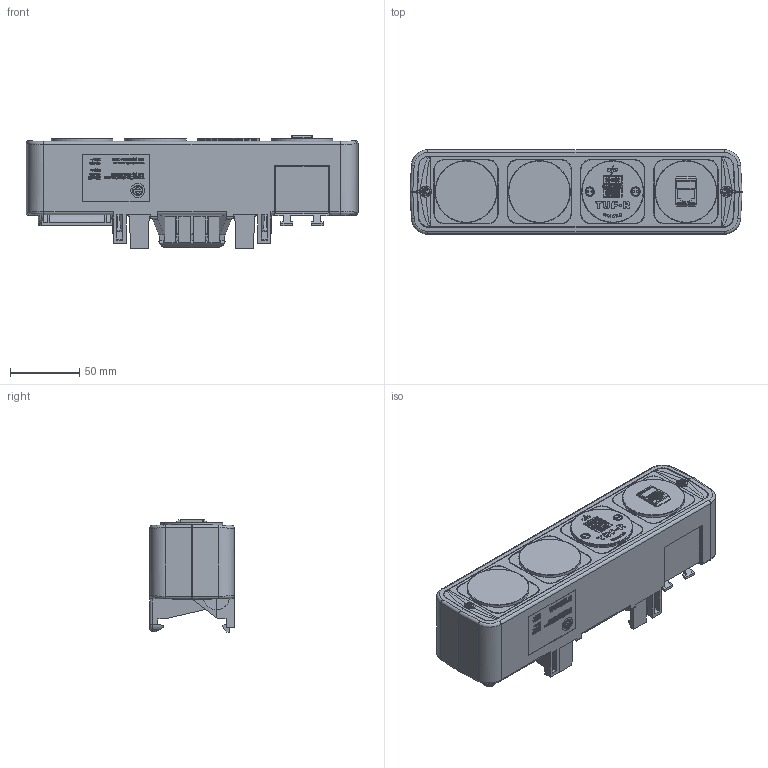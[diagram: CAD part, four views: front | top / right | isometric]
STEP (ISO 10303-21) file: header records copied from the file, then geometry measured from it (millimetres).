
FILE_DESCRIPTION (( 'STEP AP203' ), '1' );
FILE_NAME ('Pulse_5.STEP', '2023-01-27T15:18:23', ( '' ), ( '' ), 'SwSTEP 2.0', 'SolidWorks 2021', '' );
FILE_SCHEMA (( 'CONFIG_CONTROL_DESIGN' ));
Products named in the file (1): Pulse_5
Bounding box: 240 x 61 x 81.54 mm (x, y, z)
Volume: 787117.1 mm3; surface area: 95321 mm2
Topology: 1 solids, 15 shells, 3884 faces, 11004 edges, 7173 vertices
Faces by surface type: plane 2643, cylinder 640, bspline 546, cone 55
Entity records: 152458 total; most frequent: CARTESIAN_POINT 57604, ORIENTED_EDGE 22002, DIRECTION 15836, EDGE_CURVE 11001, VECTOR 8226, LINE 8226, VERTEX_POINT 7172, EDGE_LOOP 4173
